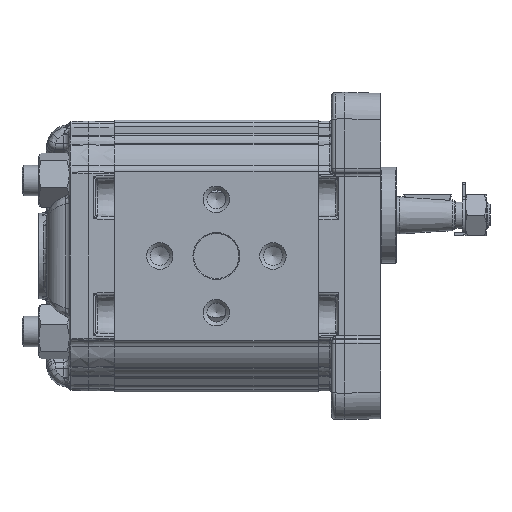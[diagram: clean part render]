
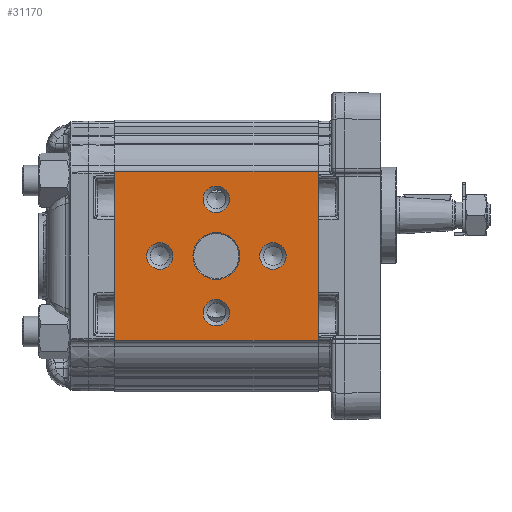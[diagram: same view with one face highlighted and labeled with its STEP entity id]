
A CAD part, left-side view. The second image highlights one B-rep face of the part: STEP entity #31170.
In plain terms, the highlighted planar face has unit normal (-1, 0, 0).
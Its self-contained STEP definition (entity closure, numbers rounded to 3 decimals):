
#3284=LINE('',#76431,#4605);
#3294=LINE('',#76532,#4615);
#3313=LINE('',#76580,#4634);
#3314=LINE('',#76582,#4635);
#4605=VECTOR('',#55890,1000.);
#4615=VECTOR('',#55982,1000.);
#4634=VECTOR('',#56037,1000.);
#4635=VECTOR('',#56040,1000.);
#5405=PLANE('',#49065);
#10891=ORIENTED_EDGE('',*,*,#17661,.T.);
#10892=ORIENTED_EDGE('',*,*,#17662,.T.);
#10893=ORIENTED_EDGE('',*,*,#17663,.T.);
#10894=ORIENTED_EDGE('',*,*,#17664,.T.);
#10895=ORIENTED_EDGE('',*,*,#17665,.T.);
#10896=ORIENTED_EDGE('',*,*,#17641,.T.);
#10897=ORIENTED_EDGE('',*,*,#17613,.T.);
#10898=ORIENTED_EDGE('',*,*,#17642,.T.);
#10899=ORIENTED_EDGE('',*,*,#17563,.F.);
#17563=EDGE_CURVE('',#21281,#21282,#3284,.T.);
#17613=EDGE_CURVE('',#21332,#21331,#3294,.T.);
#17641=EDGE_CURVE('',#21281,#21332,#3313,.T.);
#17642=EDGE_CURVE('',#21331,#21282,#3314,.F.);
#17661=EDGE_CURVE('',#21351,#21351,#23712,.F.);
#17662=EDGE_CURVE('',#21352,#21352,#23713,.F.);
#17663=EDGE_CURVE('',#21353,#21353,#23714,.F.);
#17664=EDGE_CURVE('',#21354,#21354,#23715,.F.);
#17665=EDGE_CURVE('',#21355,#21355,#23716,.F.);
#21281=VERTEX_POINT('',#76430);
#21282=VERTEX_POINT('',#76432);
#21331=VERTEX_POINT('',#76531);
#21332=VERTEX_POINT('',#76533);
#21351=VERTEX_POINT('',#76705);
#21352=VERTEX_POINT('',#76707);
#21353=VERTEX_POINT('',#76709);
#21354=VERTEX_POINT('',#76711);
#21355=VERTEX_POINT('',#76713);
#23712=CIRCLE('',#49066,3.5);
#23713=CIRCLE('',#49067,3.5);
#23714=CIRCLE('',#49068,3.5);
#23715=CIRCLE('',#49069,3.5);
#23716=CIRCLE('',#49070,6.2);
#25881=EDGE_LOOP('',(#10891));
#25882=EDGE_LOOP('',(#10892));
#25883=EDGE_LOOP('',(#10893));
#25884=EDGE_LOOP('',(#10894));
#25885=EDGE_LOOP('',(#10895));
#25886=EDGE_LOOP('',(#10896,#10897,#10898,#10899));
#28298=FACE_BOUND('',#25881,.T.);
#28299=FACE_BOUND('',#25882,.T.);
#28300=FACE_BOUND('',#25883,.T.);
#28301=FACE_BOUND('',#25884,.T.);
#28302=FACE_BOUND('',#25885,.T.);
#28303=FACE_BOUND('',#25886,.T.);
#31170=ADVANCED_FACE('',(#28298,#28299,#28300,#28301,#28302,#28303),#5405,
 .T.);
#49065=AXIS2_PLACEMENT_3D('',#76703,#56083,#56084);
#49066=AXIS2_PLACEMENT_3D('',#76704,#56085,#56086);
#49067=AXIS2_PLACEMENT_3D('',#76706,#56087,#56088);
#49068=AXIS2_PLACEMENT_3D('',#76708,#56089,#56090);
#49069=AXIS2_PLACEMENT_3D('',#76710,#56091,#56092);
#49070=AXIS2_PLACEMENT_3D('',#76712,#56093,#56094);
#55890=DIRECTION('',(0.,0.,1.));
#55982=DIRECTION('',(0.,0.,1.));
#56037=DIRECTION('',(0.,-1.,0.));
#56040=DIRECTION('',(0.,-1.,0.));
#56083=DIRECTION('',(-1.,0.,0.));
#56084=DIRECTION('',(0.,0.,1.));
#56085=DIRECTION('',(-1.,0.,0.));
#56086=DIRECTION('',(0.,0.,1.));
#56087=DIRECTION('',(-1.,0.,0.));
#56088=DIRECTION('',(0.,0.,1.));
#56089=DIRECTION('',(-1.,0.,0.));
#56090=DIRECTION('',(0.,0.,1.));
#56091=DIRECTION('',(-1.,0.,0.));
#56092=DIRECTION('',(0.,0.,1.));
#56093=DIRECTION('',(-1.,0.,0.));
#56094=DIRECTION('',(0.,0.,1.));
#76430=CARTESIAN_POINT('',(-33.,54.,-22.5));
#76431=CARTESIAN_POINT('',(-33.,54.,-21.711));
#76432=CARTESIAN_POINT('',(-33.,54.,22.5));
#76531=CARTESIAN_POINT('',(-33.,0.,22.5));
#76532=CARTESIAN_POINT('',(-33.,0.,-21.711));
#76533=CARTESIAN_POINT('',(-33.,0.,-22.5));
#76580=CARTESIAN_POINT('',(-33.,54.,-22.5));
#76582=CARTESIAN_POINT('',(-33.,54.,22.5));
#76703=CARTESIAN_POINT('',(-33.,129.534,48.138));
#76704=CARTESIAN_POINT('',(-33.,27.,-15.));
#76705=CARTESIAN_POINT('',(-33.,27.,-11.5));
#76706=CARTESIAN_POINT('',(-33.,12.,0.));
#76707=CARTESIAN_POINT('',(-33.,12.,3.5));
#76708=CARTESIAN_POINT('',(-33.,27.,15.));
#76709=CARTESIAN_POINT('',(-33.,27.,18.5));
#76710=CARTESIAN_POINT('',(-33.,42.,0.));
#76711=CARTESIAN_POINT('',(-33.,42.,3.5));
#76712=CARTESIAN_POINT('',(-33.,27.,0.));
#76713=CARTESIAN_POINT('',(-33.,27.,6.2));
